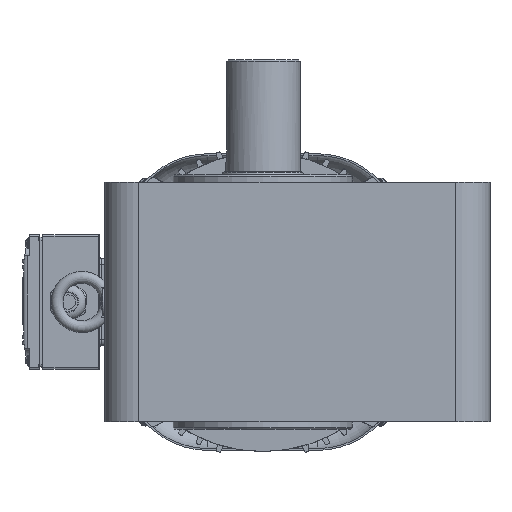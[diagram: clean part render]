
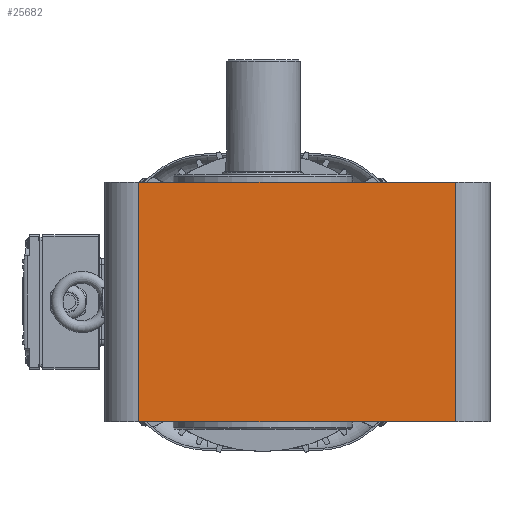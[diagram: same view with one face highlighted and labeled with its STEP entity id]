
A CAD part, left-side view. The second image highlights one B-rep face of the part: STEP entity #25682.
In plain terms, the highlighted planar face has unit normal (-1, 0, 0).
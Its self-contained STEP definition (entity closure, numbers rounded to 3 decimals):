
#824=PLANE('',#28258);
#1966=FACE_OUTER_BOUND('',#3500,.T.);
#3500=EDGE_LOOP('',(#20743,#20744,#20745,#20746));
#6859=LINE('',#44282,#8821);
#6886=LINE('',#44396,#8848);
#6887=LINE('',#44400,#8849);
#6888=LINE('',#44401,#8850);
#8821=VECTOR('',#34367,212.);
#8848=VECTOR('',#34486,160.);
#8849=VECTOR('',#34491,160.);
#8850=VECTOR('',#34492,212.);
#11522=VERTEX_POINT('',#44279);
#11523=VERTEX_POINT('',#44281);
#11564=VERTEX_POINT('',#44395);
#11565=VERTEX_POINT('',#44399);
#14754=EDGE_CURVE('',#11523,#11522,#6859,.T.);
#14809=EDGE_CURVE('',#11523,#11564,#6886,.T.);
#14811=EDGE_CURVE('',#11565,#11522,#6887,.T.);
#14812=EDGE_CURVE('',#11565,#11564,#6888,.T.);
#20743=ORIENTED_EDGE('',*,*,#14809,.F.);
#20744=ORIENTED_EDGE('',*,*,#14754,.T.);
#20745=ORIENTED_EDGE('',*,*,#14811,.F.);
#20746=ORIENTED_EDGE('',*,*,#14812,.T.);
#25682=ADVANCED_FACE('',(#1966),#824,.T.);
#28258=AXIS2_PLACEMENT_3D('',#44398,#34489,#34490);
#34367=DIRECTION('',(0.,1.,0.));
#34486=DIRECTION('',(0.,0.,-1.));
#34489=DIRECTION('center_axis',(-1.,0.,0.));
#34490=DIRECTION('ref_axis',(0.,0.,1.));
#34491=DIRECTION('',(0.,0.,1.));
#34492=DIRECTION('',(0.,-1.,0.));
#44279=CARTESIAN_POINT('',(-124.669,87.437,49.));
#44281=CARTESIAN_POINT('',(-124.669,-124.563,49.));
#44282=CARTESIAN_POINT('',(-124.669,-124.563,49.));
#44395=CARTESIAN_POINT('',(-124.669,-124.563,-111.));
#44396=CARTESIAN_POINT('',(-124.669,-124.563,49.));
#44398=CARTESIAN_POINT('Origin',(-124.669,-147.563,-111.));
#44399=CARTESIAN_POINT('',(-124.669,87.437,-111.));
#44400=CARTESIAN_POINT('',(-124.669,87.437,-111.));
#44401=CARTESIAN_POINT('',(-124.669,87.437,-111.));
